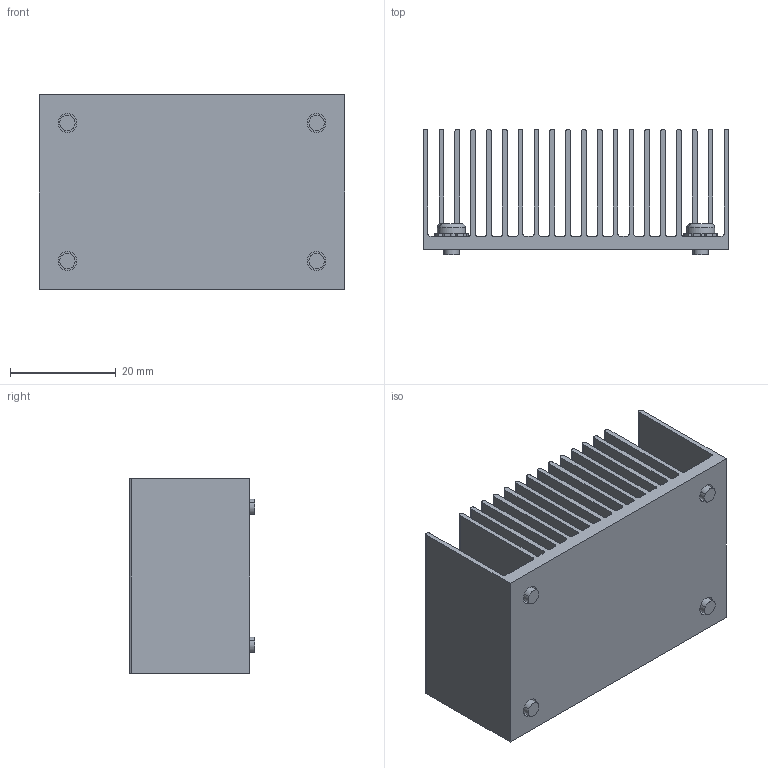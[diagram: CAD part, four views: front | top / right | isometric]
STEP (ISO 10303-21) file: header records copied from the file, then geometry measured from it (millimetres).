
FILE_DESCRIPTION (( 'STEP AP214' ), '1' );
FILE_NAME ('HS1574EBK04.STEP', '2023-03-03T16:27:45', ( '' ), ( '' ), 'SwSTEP 2.0', 'SolidWorks 2020', '' );
FILE_SCHEMA (( 'AUTOMOTIVE_DESIGN' ));
Length unit declared in the file: millimetre
Products named in the file (1): HS1574EBK04
Bounding box: 57.91 x 23.81 x 36.83 mm (x, y, z)
Volume: 17617.7 mm3; surface area: 32716.5 mm2
Topology: 5 solids, 5 shells, 540 faces, 1429 edges, 907 vertices
Faces by surface type: plane 386, cylinder 146, torus 8
Entity records: 22625 total; most frequent: CARTESIAN_POINT 2953, DIRECTION 2869, ORIENTED_EDGE 2858, EDGE_CURVE 1429, LINE 1049, VECTOR 1049, AXIS2_PLACEMENT_3D 910, VERTEX_POINT 907
